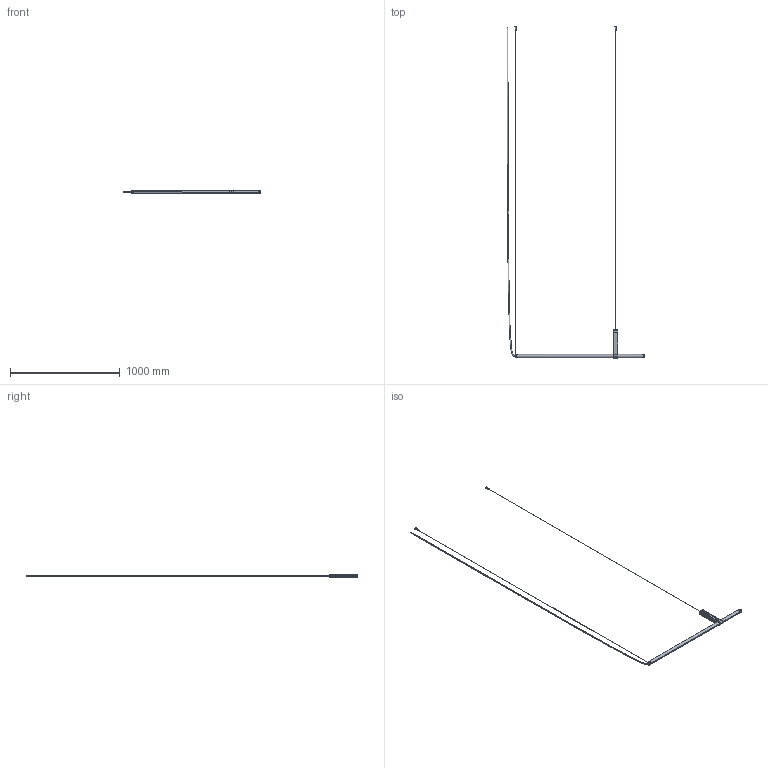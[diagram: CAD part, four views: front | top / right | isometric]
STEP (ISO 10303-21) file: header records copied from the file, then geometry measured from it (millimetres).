
FILE_DESCRIPTION (( 'STEP AP203' ), '1' );
FILE_NAME ('SPPARA01BIXXXXXXX-PER 3D.STEP', '2026-07-07T16:57:08', ( '' ), ( '' ), 'SwSTEP 2.0', 'SolidWorks 2026', '' );
FILE_SCHEMA (( 'CONFIG_CONTROL_DESIGN' ));
Length unit declared in the file: millimetre
Products named in the file (21): WSCM1I0006-0242-00; WSCP2E0045-1400-04; ACTESTAC001XXXX REV.02-lungo; WSCP2E0004-1400-06; SPPARA01BIXXXXXXX-PER 3D; ACTUXC30EXBI1XX REV.03; WSCM1I0008-0242-00; WSCA01193000B2830B L=3000mm; WSCP2E0048-1400-03; WSCM1I0007-0242-00; WSCA01193000B2830B-lungo; WSCP2E0014-1400-05; WSVBPAR116225XX-00; GUAINA SILIC Ø4mm L= 15mm; socket set screw flat point_iso_ISO 4026 - M6 x 8-C; WSCP2E0030-1400-02; WSCP2E0046-1400-03; WSCP2E0018-1400-03; ACDISTBIXORXXXX REV.01; SS27N L=3000mm-lungo; WSCP2E0047-1400-04
Assembly tree (23 placements, depth 3):
  SPPARA01BIXXXXXXX-PER 3D
    ACTUXC30EXBI1XX REV.03
      WSVBPAR116225XX-00
      WSCP2E0004-1400-06
      WSCP2E0047-1400-04
      WSCP2E0046-1400-03
      WSCP2E0045-1400-04
      socket set screw flat point_iso_ISO 4026 - M6 x 8-C
      GUAINA SILIC Ø4mm L= 15mm
      WSCP2E0048-1400-03
    ACDISTBIXORXXXX REV.01
      WSCP2E0014-1400-05
      WSCP2E0018-1400-03
    ACTESTAC001XXXX REV.02-lungo
      WSCP2E0030-1400-02
      WSCA01193000B2830B L=3000mm
      WSCM1I0007-0242-00
      WSCM1I0006-0242-00
      WSCM1I0008-0242-00
    WSCA01193000B2830B-lungo
    WSCM1I0006-0242-00
    WSCM1I0007-0242-00
    WSCM1I0008-0242-00
    SS27N L=3000mm-lungo
Bounding box: 1258.75 x 3030.73 x 35.5 mm (x, y, z)
Volume: 497603.4 mm3; surface area: 530168.2 mm2
Topology: 27 solids, 27 shells, 6233 faces, 14571 edges, 8154 vertices
Faces by surface type: cylinder 2475, torus 1562, plane 1078, bspline 833, sphere 204, cone 81
Entity records: 207896 total; most frequent: CARTESIAN_POINT 73492, DIRECTION 29483, ORIENTED_EDGE 27372, EDGE_CURVE 13686, AXIS2_PLACEMENT_3D 12438, VERTEX_POINT 7784, CIRCLE 7217, EDGE_LOOP 6164
